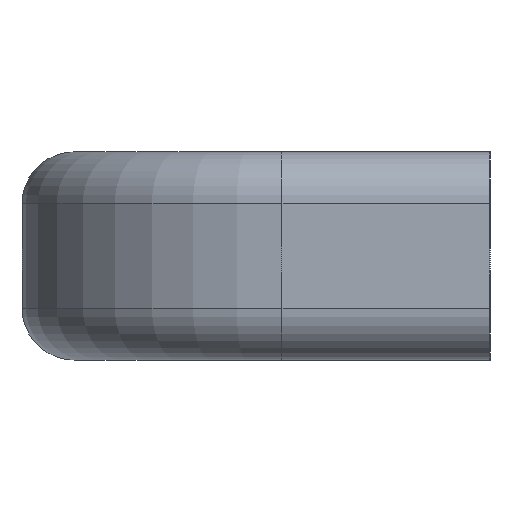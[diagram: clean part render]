
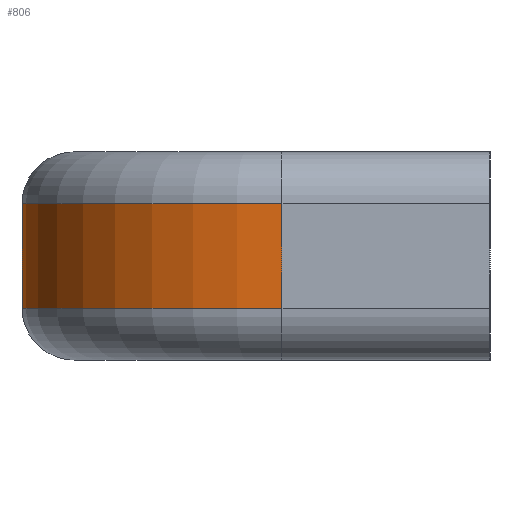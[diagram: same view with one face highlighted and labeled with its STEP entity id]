
A CAD part, left-side view. The second image highlights one B-rep face of the part: STEP entity #806.
In plain terms, the highlighted cylindrical face has radius 25 mm (diameter 50 mm), a partial arc.
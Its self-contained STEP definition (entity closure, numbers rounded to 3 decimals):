
#228 = VERTEX_POINT ( 'NONE', #305 ) ;
#229 = VERTEX_POINT ( 'NONE', #304 ) ;
#235 = EDGE_CURVE ( 'NONE', #228, #229, #365, .T. ) ;
#304 = CARTESIAN_POINT ( 'NONE',  ( -155., 45., 5. ) ) ;
#305 = CARTESIAN_POINT ( 'NONE',  ( -155., 45., -5. ) ) ;
#362 = DIRECTION ( 'NONE',  ( 0., 0., 1. ) ) ;
#363 = VECTOR ( 'NONE', #362, 1000. ) ;
#364 = CARTESIAN_POINT ( 'NONE',  ( -155., 45., 5. ) ) ;
#365 = LINE ( 'NONE', #364, #363 ) ;
#467 = DIRECTION ( 'NONE',  ( -1., 0., 0. ) ) ;
#468 = DIRECTION ( 'NONE',  ( 0., 0., -1. ) ) ;
#469 = CARTESIAN_POINT ( 'NONE',  ( -155., 20., -5. ) ) ;
#470 = AXIS2_PLACEMENT_3D ( 'NONE', #469, #468, #467 ) ;
#471 = CIRCLE ( 'NONE', #470, 25. ) ;
#494 = DIRECTION ( 'NONE',  ( -1., 0., 0. ) ) ;
#495 = DIRECTION ( 'NONE',  ( 0., 0., -1. ) ) ;
#496 = CARTESIAN_POINT ( 'NONE',  ( -155., 20., 5. ) ) ;
#497 = AXIS2_PLACEMENT_3D ( 'NONE', #496, #495, #494 ) ;
#498 = CIRCLE ( 'NONE', #497, 25. ) ;
#499 = CARTESIAN_POINT ( 'NONE',  ( -180., 20., 5. ) ) ;
#500 = CARTESIAN_POINT ( 'NONE',  ( -180., 20., -5. ) ) ;
#521 = DIRECTION ( 'NONE',  ( 0., 0., 1. ) ) ;
#523 = VECTOR ( 'NONE', #521, 1000. ) ;
#524 = CARTESIAN_POINT ( 'NONE',  ( -180., 20., 5. ) ) ;
#526 = LINE ( 'NONE', #524, #523 ) ;
#563 = EDGE_CURVE ( 'NONE', #703, #228, #471, .T. ) ;
#564 = ORIENTED_EDGE ( 'NONE', *, *, #235, .F. ) ;
#593 = DIRECTION ( 'NONE',  ( -1., 0., 0. ) ) ;
#594 = DIRECTION ( 'NONE',  ( 0., 0., -1. ) ) ;
#595 = AXIS2_PLACEMENT_3D ( 'NONE', #600, #594, #593 ) ;
#600 = CARTESIAN_POINT ( 'NONE',  ( -155., 20., 0. ) ) ;
#601 = CYLINDRICAL_SURFACE ( 'NONE', #595, 25. ) ;
#602 = FACE_OUTER_BOUND ( 'NONE', #803, .T. ) ;
#665 = ORIENTED_EDGE ( 'NONE', *, *, #563, .F. ) ;
#703 = VERTEX_POINT ( 'NONE', #500 ) ;
#705 = VERTEX_POINT ( 'NONE', #499 ) ;
#706 = ORIENTED_EDGE ( 'NONE', *, *, #707, .T. ) ;
#707 = EDGE_CURVE ( 'NONE', #705, #229, #498, .T. ) ;
#801 = EDGE_CURVE ( 'NONE', #703, #705, #526, .T. ) ;
#803 = EDGE_LOOP ( 'NONE', ( #804, #706, #564, #665 ) ) ;
#804 = ORIENTED_EDGE ( 'NONE', *, *, #801, .T. ) ;
#806 = ADVANCED_FACE ( 'NONE', ( #602 ), #601, .T. ) ;
